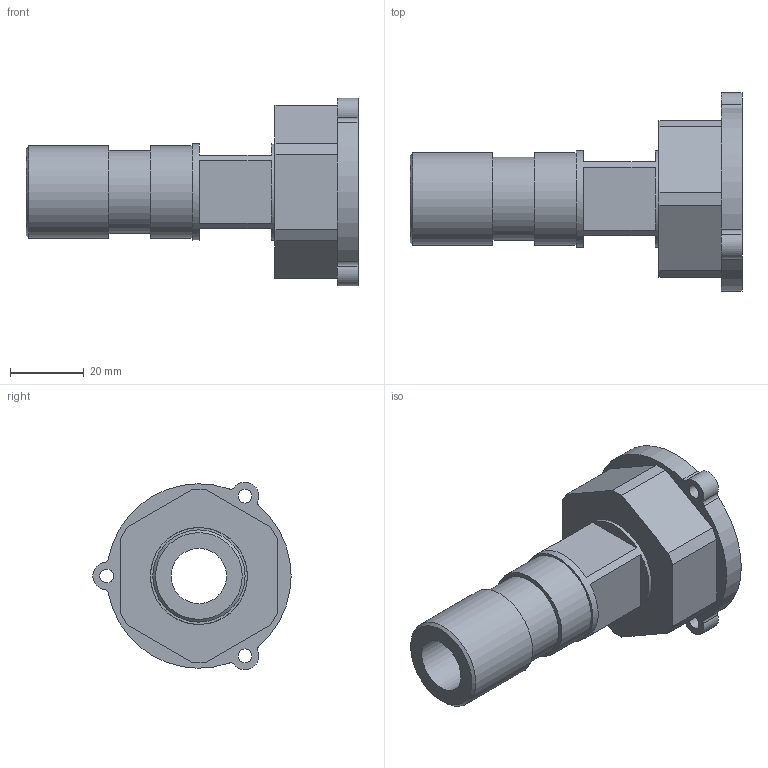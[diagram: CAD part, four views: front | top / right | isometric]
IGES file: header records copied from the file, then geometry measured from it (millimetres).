
Global section: file name: 0358916025.ipt; native system: Autodesk Inventor 2015; preprocessor: unknown; author: KIM; date: 20170529.144923; units: millimetre
Bounding box: 90 x 53.74 x 50.79 mm (x, y, z)
Volume: 42666 mm3; surface area: 17904.8 mm2
Topology: 1 solids, 1 shells, 54 faces, 132 edges, 89 vertices
Faces by surface type: plane 32, revolution 11, cylinder 10, cone 1
Full cylindrical faces by diameter (mm): 22.5 x1, 25 x2, 26.25 x1
